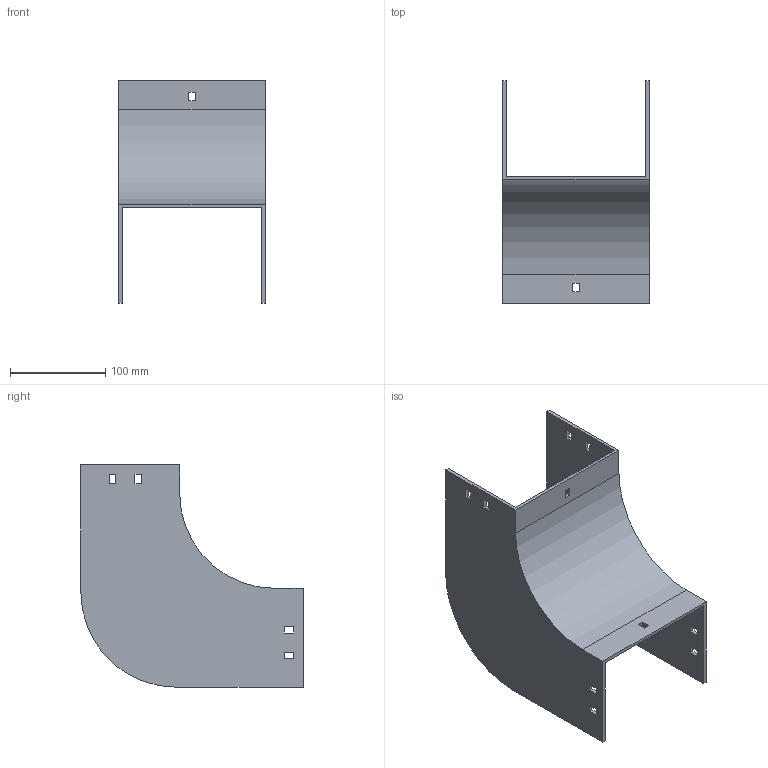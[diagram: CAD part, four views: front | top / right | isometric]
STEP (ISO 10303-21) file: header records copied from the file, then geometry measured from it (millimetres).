
FILE_DESCRIPTION (( 'STEP AP214' ), '1' );
FILE_NAME ('33F1D150.step', '2025-02-21T12:51:47', ( '' ), ( '' ), 'SwSTEP 2.0', 'SolidWorks 2023', '' );
FILE_SCHEMA (( 'AUTOMOTIVE_DESIGN' ));
Length unit declared in the file: millimetre
Products named in the file (1): 33F1D150
Bounding box: 154 x 234 x 234 mm (x, y, z)
Volume: 375724.3 mm3; surface area: 221309.9 mm2
Topology: 1 solids, 1 shells, 58 faces, 168 edges, 112 vertices
Faces by surface type: plane 54, cylinder 4
Entity records: 1943 total; most frequent: CARTESIAN_POINT 339, ORIENTED_EDGE 336, DIRECTION 294, EDGE_CURVE 168, LINE 160, VECTOR 160, VERTEX_POINT 112, EDGE_LOOP 78
